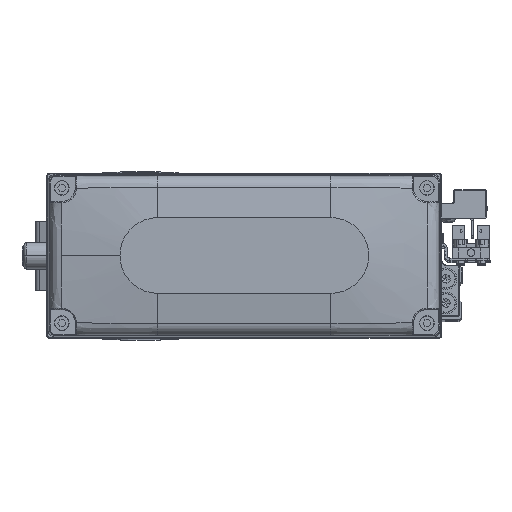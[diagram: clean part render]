
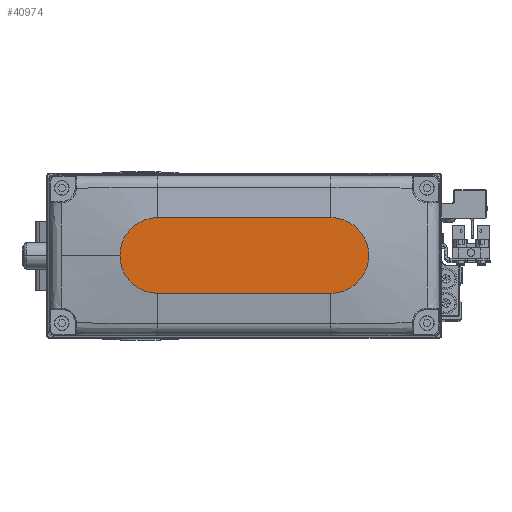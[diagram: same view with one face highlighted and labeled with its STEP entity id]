
A CAD part, top view. The second image highlights one B-rep face of the part: STEP entity #40974.
In plain terms, the highlighted planar face has unit normal (0, 0, 1).
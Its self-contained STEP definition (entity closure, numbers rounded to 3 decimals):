
#354 = EDGE_CURVE ( 'NONE', #43776, #24271, #24447, .T. ) ;
#1245 = EDGE_CURVE ( 'NONE', #24271, #12834, #40748, .T. ) ;
#2055 = EDGE_CURVE ( 'NONE', #18393, #4096, #39273, .T. ) ;
#3591 = AXIS2_PLACEMENT_3D ( 'NONE', #29189, #43233, #11705 ) ;
#4096 = VERTEX_POINT ( 'NONE', #20987 ) ;
#4628 = AXIS2_PLACEMENT_3D ( 'NONE', #36950, #5426, #19441 ) ;
#4930 = CARTESIAN_POINT ( 'NONE',  ( 32., 0., 35. ) ) ;
#5426 = DIRECTION ( 'NONE',  ( 0., 0., 1. ) ) ;
#8163 = CARTESIAN_POINT ( 'NONE',  ( 0., 0., 35. ) ) ;
#8528 = DIRECTION ( 'NONE',  ( -1., 0., 0. ) ) ;
#9218 = CARTESIAN_POINT ( 'NONE',  ( -32., -14., 35. ) ) ;
#10474 = ORIENTED_EDGE ( 'NONE', *, *, #1245, .T. ) ;
#11705 = DIRECTION ( 'NONE',  ( 1., 0., 0. ) ) ;
#12834 = VERTEX_POINT ( 'NONE', #23340 ) ;
#13998 = ORIENTED_EDGE ( 'NONE', *, *, #23998, .T. ) ;
#18393 = VERTEX_POINT ( 'NONE', #22357 ) ;
#18955 = DIRECTION ( 'NONE',  ( 0., 0., 1. ) ) ;
#19431 = AXIS2_PLACEMENT_3D ( 'NONE', #4930, #18955, #32995 ) ;
#19441 = DIRECTION ( 'NONE',  ( 1., 0., 0. ) ) ;
#20987 = CARTESIAN_POINT ( 'NONE',  ( 32., 14., 35. ) ) ;
#22199 = DIRECTION ( 'NONE',  ( 0., 0., 1. ) ) ;
#22357 = CARTESIAN_POINT ( 'NONE',  ( 46., 0., 35. ) ) ;
#23262 = DIRECTION ( 'NONE',  ( 1., 0., 0. ) ) ;
#23340 = CARTESIAN_POINT ( 'NONE',  ( 32., -14., 35. ) ) ;
#23428 = CIRCLE ( 'NONE', #3591, 14. ) ;
#23998 = EDGE_CURVE ( 'NONE', #12834, #18393, #23428, .T. ) ;
#24271 = VERTEX_POINT ( 'NONE', #45266 ) ;
#24277 = EDGE_LOOP ( 'NONE', ( #41800, #35549, #10474, #13998, #28226 ) ) ;
#24447 = CIRCLE ( 'NONE', #4628, 14. ) ;
#25664 = FACE_OUTER_BOUND ( 'NONE', #24277, .T. ) ;
#25995 = LINE ( 'NONE', #40059, #29823 ) ;
#28226 = ORIENTED_EDGE ( 'NONE', *, *, #2055, .T. ) ;
#29189 = CARTESIAN_POINT ( 'NONE',  ( 32., 0., 35. ) ) ;
#29823 = VECTOR ( 'NONE', #8528, 1000. ) ;
#32995 = DIRECTION ( 'NONE',  ( 1., 0., 0. ) ) ;
#33394 = EDGE_CURVE ( 'NONE', #4096, #43776, #25995, .T. ) ;
#34813 = VECTOR ( 'NONE', #23262, 1000. ) ;
#35549 = ORIENTED_EDGE ( 'NONE', *, *, #354, .T. ) ;
#36249 = DIRECTION ( 'NONE',  ( 1., 0., 0. ) ) ;
#36950 = CARTESIAN_POINT ( 'NONE',  ( -32., 0., 35. ) ) ;
#39273 = CIRCLE ( 'NONE', #19431, 14. ) ;
#39710 = PLANE ( 'NONE',  #42320 ) ;
#39949 = CARTESIAN_POINT ( 'NONE',  ( -32., 14., 35. ) ) ;
#40059 = CARTESIAN_POINT ( 'NONE',  ( -32., 14., 35. ) ) ;
#40748 = LINE ( 'NONE', #9218, #34813 ) ;
#40974 = ADVANCED_FACE ( 'NONE', ( #25664 ), #39710, .T. ) ;
#41800 = ORIENTED_EDGE ( 'NONE', *, *, #33394, .T. ) ;
#42320 = AXIS2_PLACEMENT_3D ( 'NONE', #8163, #22199, #36249 ) ;
#43233 = DIRECTION ( 'NONE',  ( 0., 0., 1. ) ) ;
#43776 = VERTEX_POINT ( 'NONE', #39949 ) ;
#45266 = CARTESIAN_POINT ( 'NONE',  ( -32., -14., 35. ) ) ;
